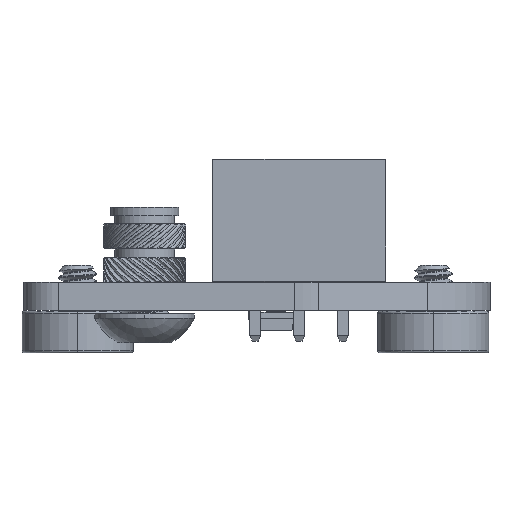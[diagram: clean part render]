
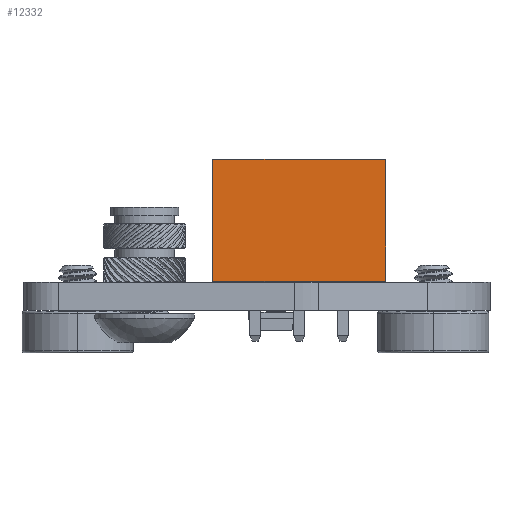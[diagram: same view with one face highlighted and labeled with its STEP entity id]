
A CAD part, left-side view. The second image highlights one B-rep face of the part: STEP entity #12332.
In plain terms, the highlighted planar face has unit normal (-1, 0, 0) as drawn and (0, -1, 0) by its records, which use the part's own axes.
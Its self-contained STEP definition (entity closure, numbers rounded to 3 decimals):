
#3693 = VERTEX_POINT('',#3694);
#3694 = CARTESIAN_POINT('',(4.935,-2.875,0.015));
#3738 = CYLINDRICAL_SURFACE('',#3739,0.015);
#3739 = AXIS2_PLACEMENT_3D('',#3740,#3741,#3742);
#3740 = CARTESIAN_POINT('',(-4.95,-2.86,0.015));
#3741 = DIRECTION('',(1.,0.,0.));
#3742 = DIRECTION('',(0.,-0.707,
    -0.707));
#3877 = CYLINDRICAL_SURFACE('',#3878,0.015);
#3878 = AXIS2_PLACEMENT_3D('',#3879,#3880,#3881);
#3879 = CARTESIAN_POINT('',(4.935,-2.86,3.5));
#3880 = DIRECTION('',(0.,0.,1.));
#3881 = DIRECTION('',(0.707,-0.707,0.
    ));
#4580 = VERTEX_POINT('',#4581);
#4581 = CARTESIAN_POINT('',(-4.935,-2.875,0.015));
#4684 = CYLINDRICAL_SURFACE('',#4685,0.015);
#4685 = AXIS2_PLACEMENT_3D('',#4686,#4687,#4688);
#4686 = CARTESIAN_POINT('',(-4.935,-2.86,3.5));
#4687 = DIRECTION('',(0.,0.,1.));
#4688 = DIRECTION('',(-0.707,-0.707,
    0.));
#4722 = EDGE_CURVE('',#3693,#4580,#4723,.T.);
#4723 = SURFACE_CURVE('',#4724,(#4728,#4735),.PCURVE_S1.);
#4724 = LINE('',#4725,#4726);
#4725 = CARTESIAN_POINT('',(-4.95,-2.875,0.015));
#4726 = VECTOR('',#4727,1.);
#4727 = DIRECTION('',(-1.,0.,0.));
#4728 = PCURVE('',#3738,#4729);
#4729 = DEFINITIONAL_REPRESENTATION('',(#4730),#4734);
#4730 = LINE('',#4731,#4732);
#4731 = CARTESIAN_POINT('',(-0.785,0.));
#4732 = VECTOR('',#4733,1.);
#4733 = DIRECTION('',(0.,-1.));
#4734 = ( GEOMETRIC_REPRESENTATION_CONTEXT(2) 
PARAMETRIC_REPRESENTATION_CONTEXT() REPRESENTATION_CONTEXT('2D SPACE',''
  ) );
#4735 = PCURVE('',#4736,#4741);
#4736 = PLANE('',#4737);
#4737 = AXIS2_PLACEMENT_3D('',#4738,#4739,#4740);
#4738 = CARTESIAN_POINT('',(-4.95,-2.875,0.));
#4739 = DIRECTION('',(0.,1.,0.));
#4740 = DIRECTION('',(-1.,0.,0.));
#4741 = DEFINITIONAL_REPRESENTATION('',(#4742),#4746);
#4742 = LINE('',#4743,#4744);
#4743 = CARTESIAN_POINT('',(0.,0.015));
#4744 = VECTOR('',#4745,1.);
#4745 = DIRECTION('',(1.,0.));
#4746 = ( GEOMETRIC_REPRESENTATION_CONTEXT(2) 
PARAMETRIC_REPRESENTATION_CONTEXT() REPRESENTATION_CONTEXT('2D SPACE',''
  ) );
#5361 = VERTEX_POINT('',#5362);
#5362 = CARTESIAN_POINT('',(4.935,-2.875,6.985));
#5404 = CYLINDRICAL_SURFACE('',#5405,0.015);
#5405 = AXIS2_PLACEMENT_3D('',#5406,#5407,#5408);
#5406 = CARTESIAN_POINT('',(-4.95,-2.86,6.985));
#5407 = DIRECTION('',(1.,0.,0.));
#5408 = DIRECTION('',(0.,-0.707,0.707
    ));
#5581 = EDGE_CURVE('',#5361,#3693,#5582,.T.);
#5582 = SURFACE_CURVE('',#5583,(#5587,#5594),.PCURVE_S1.);
#5583 = LINE('',#5584,#5585);
#5584 = CARTESIAN_POINT('',(4.935,-2.875,3.5));
#5585 = VECTOR('',#5586,1.);
#5586 = DIRECTION('',(0.,0.,-1.));
#5587 = PCURVE('',#3877,#5588);
#5588 = DEFINITIONAL_REPRESENTATION('',(#5589),#5593);
#5589 = LINE('',#5590,#5591);
#5590 = CARTESIAN_POINT('',(-0.785,0.));
#5591 = VECTOR('',#5592,1.);
#5592 = DIRECTION('',(0.,-1.));
#5593 = ( GEOMETRIC_REPRESENTATION_CONTEXT(2) 
PARAMETRIC_REPRESENTATION_CONTEXT() REPRESENTATION_CONTEXT('2D SPACE',''
  ) );
#5594 = PCURVE('',#4736,#5595);
#5595 = DEFINITIONAL_REPRESENTATION('',(#5596),#5600);
#5596 = LINE('',#5597,#5598);
#5597 = CARTESIAN_POINT('',(-9.885,3.5));
#5598 = VECTOR('',#5599,1.);
#5599 = DIRECTION('',(0.,-1.));
#5600 = ( GEOMETRIC_REPRESENTATION_CONTEXT(2) 
PARAMETRIC_REPRESENTATION_CONTEXT() REPRESENTATION_CONTEXT('2D SPACE',''
  ) );
#6126 = VERTEX_POINT('',#6127);
#6127 = CARTESIAN_POINT('',(-4.935,-2.875,6.985));
#6368 = EDGE_CURVE('',#6126,#5361,#6369,.T.);
#6369 = SURFACE_CURVE('',#6370,(#6374,#6381),.PCURVE_S1.);
#6370 = LINE('',#6371,#6372);
#6371 = CARTESIAN_POINT('',(-4.95,-2.875,6.985));
#6372 = VECTOR('',#6373,1.);
#6373 = DIRECTION('',(1.,0.,0.));
#6374 = PCURVE('',#5404,#6375);
#6375 = DEFINITIONAL_REPRESENTATION('',(#6376),#6380);
#6376 = LINE('',#6377,#6378);
#6377 = CARTESIAN_POINT('',(7.069,0.));
#6378 = VECTOR('',#6379,1.);
#6379 = DIRECTION('',(0.,1.));
#6380 = ( GEOMETRIC_REPRESENTATION_CONTEXT(2) 
PARAMETRIC_REPRESENTATION_CONTEXT() REPRESENTATION_CONTEXT('2D SPACE',''
  ) );
#6381 = PCURVE('',#4736,#6382);
#6382 = DEFINITIONAL_REPRESENTATION('',(#6383),#6387);
#6383 = LINE('',#6384,#6385);
#6384 = CARTESIAN_POINT('',(0.,6.985));
#6385 = VECTOR('',#6386,1.);
#6386 = DIRECTION('',(-1.,0.));
#6387 = ( GEOMETRIC_REPRESENTATION_CONTEXT(2) 
PARAMETRIC_REPRESENTATION_CONTEXT() REPRESENTATION_CONTEXT('2D SPACE',''
  ) );
#11497 = EDGE_CURVE('',#4580,#6126,#11498,.T.);
#11498 = SURFACE_CURVE('',#11499,(#11503,#11510),.PCURVE_S1.);
#11499 = LINE('',#11500,#11501);
#11500 = CARTESIAN_POINT('',(-4.935,-2.875,3.5));
#11501 = VECTOR('',#11502,1.);
#11502 = DIRECTION('',(0.,0.,1.));
#11503 = PCURVE('',#4684,#11504);
#11504 = DEFINITIONAL_REPRESENTATION('',(#11505),#11509);
#11505 = LINE('',#11506,#11507);
#11506 = CARTESIAN_POINT('',(7.069,0.));
#11507 = VECTOR('',#11508,1.);
#11508 = DIRECTION('',(0.,1.));
#11509 = ( GEOMETRIC_REPRESENTATION_CONTEXT(2) 
PARAMETRIC_REPRESENTATION_CONTEXT() REPRESENTATION_CONTEXT('2D SPACE',''
  ) );
#11510 = PCURVE('',#4736,#11511);
#11511 = DEFINITIONAL_REPRESENTATION('',(#11512),#11516);
#11512 = LINE('',#11513,#11514);
#11513 = CARTESIAN_POINT('',(-0.015,3.5));
#11514 = VECTOR('',#11515,1.);
#11515 = DIRECTION('',(0.,1.));
#11516 = ( GEOMETRIC_REPRESENTATION_CONTEXT(2) 
PARAMETRIC_REPRESENTATION_CONTEXT() REPRESENTATION_CONTEXT('2D SPACE',''
  ) );
#12332 = ADVANCED_FACE('',(#12333),#4736,.F.);
#12333 = FACE_BOUND('',#12334,.T.);
#12334 = EDGE_LOOP('',(#12335,#12336,#12337,#12338));
#12335 = ORIENTED_EDGE('',*,*,#4722,.F.);
#12336 = ORIENTED_EDGE('',*,*,#5581,.F.);
#12337 = ORIENTED_EDGE('',*,*,#6368,.F.);
#12338 = ORIENTED_EDGE('',*,*,#11497,.F.);
